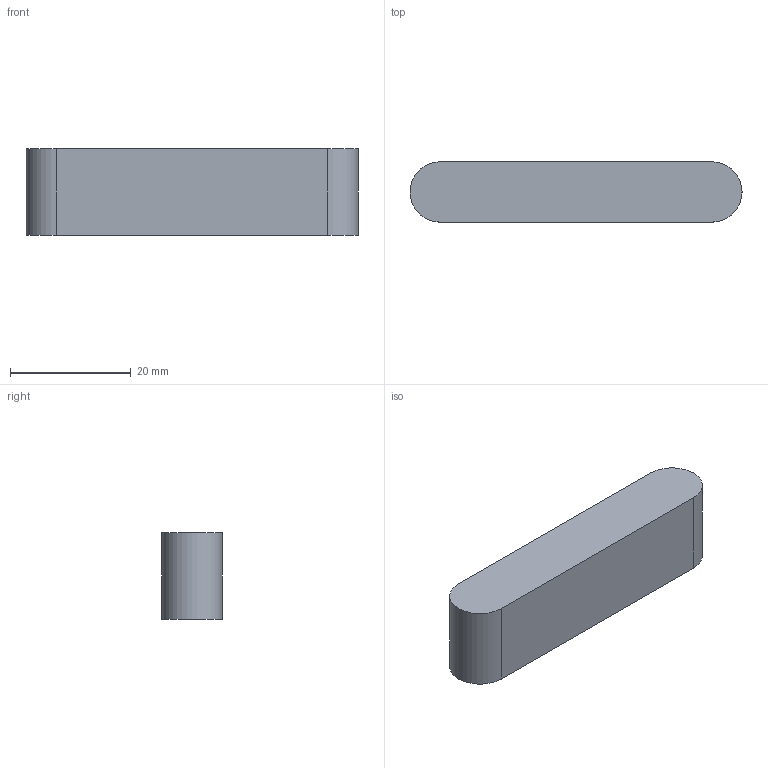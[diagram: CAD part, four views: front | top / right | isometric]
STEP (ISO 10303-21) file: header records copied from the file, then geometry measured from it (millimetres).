
FILE_DESCRIPTION(('Open CASCADE Model'),'2;1');
FILE_NAME('Open CASCADE Shape Model','2026-10-21T18:54:03',('Author'),( 'Open CASCADE'),'Open CASCADE STEP processor 8.0','build123d', 'Unknown');
FILE_SCHEMA(('AUTOMOTIVE_DESIGN { 1 0 10303 214 1 1 1 1 }'));
Length unit declared in the file: millimetre
Products named in the file (1): COMPOUND
Bounding box: 55 x 10 x 14.3 mm (x, y, z)
Volume: 7558.1 mm3; surface area: 2793.3 mm2
Topology: 1 solids, 1 shells, 6 faces, 12 edges, 8 vertices
Faces by surface type: plane 4, cylinder 2
Entity records: 338 total; most frequent: CARTESIAN_POINT 75, DIRECTION 50, LINE 28, VECTOR 28, ORIENTED_EDGE 24, PCURVE 24, DEFINITIONAL_REPRESENTATION 24, EDGE_CURVE 12
